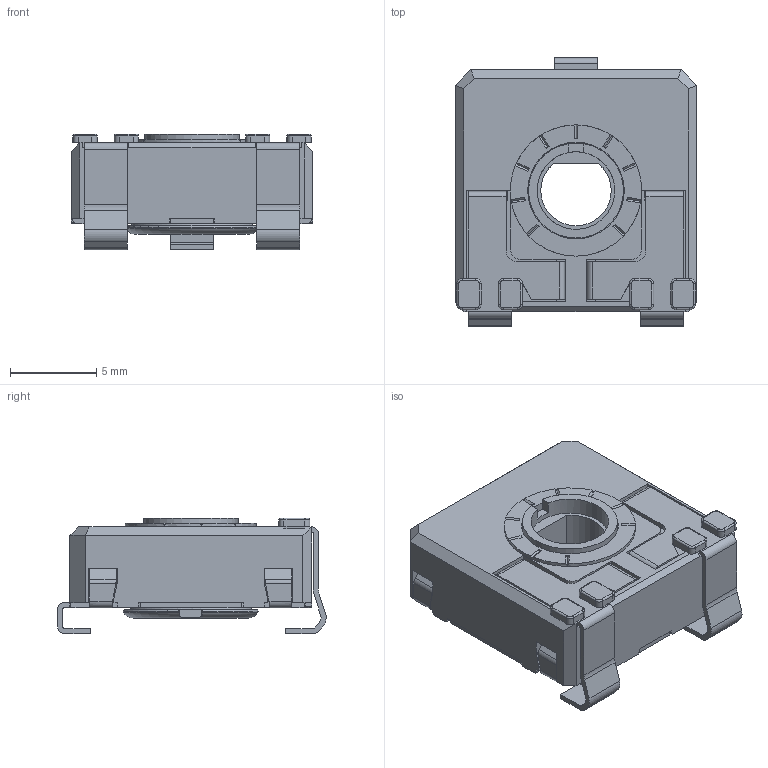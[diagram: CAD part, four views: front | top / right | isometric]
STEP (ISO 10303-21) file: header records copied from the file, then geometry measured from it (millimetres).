
FILE_DESCRIPTION(/* description */ (''),/* implementation_level */ '2;1');
FILE_NAME(/* name */ 'COMCA14DVSMD.stp',/* time_stamp */ '2026-04-01T16:26:18+02:00',/* author */ ('CEM'),/* organization */ (''),/* preprocessor_version */ 'ST-DEVELOPER v20.1',/* originating_system */ 'Autodesk Inventor 2026',/* authorisation */ '');
FILE_SCHEMA (('AUTOMOTIVE_DESIGN { 1 0 10303 214 3 1 1 }'));
Length unit declared in the file: millimetre
Products named in the file (1): CARCASA CA14 PGA
Bounding box: 14 x 15.55 x 6.7 mm (x, y, z)
Volume: 534.7 mm3; surface area: 1472.7 mm2
Topology: 1 solids, 1 shells, 549 faces, 1551 edges, 989 vertices
Faces by surface type: plane 408, cylinder 104, torus 23, bspline 8, cone 6
Full cylindrical faces by diameter (mm): 4.5 x1, 5.5 x1, 5.6 x1, 5.752 x1, 6.8 x1, 7.6 x1
Entity records: 17989 total; most frequent: CARTESIAN_POINT 3387, ORIENTED_EDGE 3102, DIRECTION 2877, EDGE_CURVE 1551, LINE 1219, VECTOR 1219, VERTEX_POINT 989, AXIS2_PLACEMENT_3D 829
